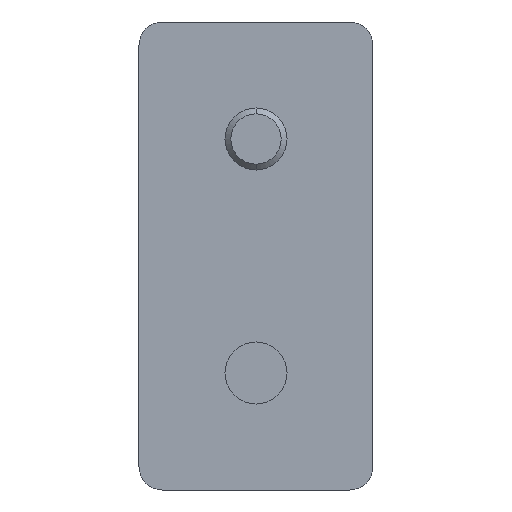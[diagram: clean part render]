
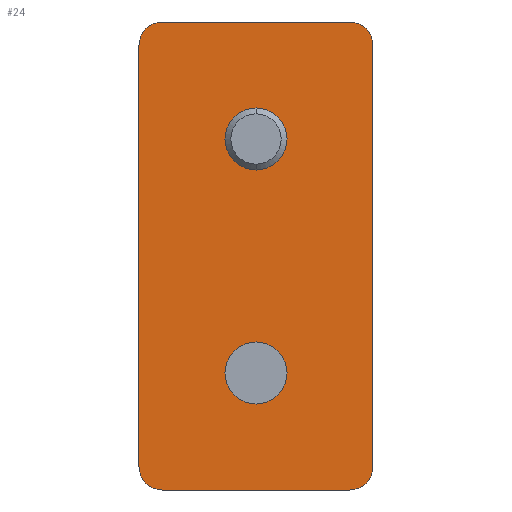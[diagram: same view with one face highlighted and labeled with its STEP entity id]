
A CAD part, front view. The second image highlights one B-rep face of the part: STEP entity #24.
In plain terms, the highlighted planar face has unit normal (0, -1, 0).
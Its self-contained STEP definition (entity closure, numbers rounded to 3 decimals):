
#8 = DIRECTION ( 'NONE',  ( 0., 1., 0. ) ) ;
#10 = ORIENTED_EDGE ( 'NONE', *, *, #295, .T. ) ;
#18 = EDGE_CURVE ( 'NONE', #116, #305, #408, .T. ) ;
#19 = CARTESIAN_POINT ( 'NONE',  ( 0., 0., -12.65 ) ) ;
#24 = ADVANCED_FACE ( 'NONE', ( #632, #572, #552 ), #221, .F. ) ;
#29 = EDGE_CURVE ( 'NONE', #236, #405, #105, .T. ) ;
#40 = CARTESIAN_POINT ( 'NONE',  ( -8., 0., -18. ) ) ;
#59 = DIRECTION ( 'NONE',  ( 1., 0., 0. ) ) ;
#61 = EDGE_LOOP ( 'NONE', ( #681, #417 ) ) ;
#63 = VECTOR ( 'NONE', #113, 1000. ) ;
#82 = DIRECTION ( 'NONE',  ( 0., 0., 1. ) ) ;
#96 = AXIS2_PLACEMENT_3D ( 'NONE', #498, #199, #145 ) ;
#105 = CIRCLE ( 'NONE', #744, 2. ) ;
#113 = DIRECTION ( 'NONE',  ( 0., 0., -1. ) ) ;
#115 = AXIS2_PLACEMENT_3D ( 'NONE', #159, #670, #335 ) ;
#116 = VERTEX_POINT ( 'NONE', #471 ) ;
#118 = ORIENTED_EDGE ( 'NONE', *, *, #483, .T. ) ;
#119 = EDGE_CURVE ( 'NONE', #305, #236, #394, .T. ) ;
#130 = DIRECTION ( 'NONE',  ( 0., 0., 1. ) ) ;
#132 = DIRECTION ( 'NONE',  ( 1., 0., 0. ) ) ;
#140 = CARTESIAN_POINT ( 'NONE',  ( 0., 0., 20. ) ) ;
#143 = CIRCLE ( 'NONE', #153, 2.65 ) ;
#145 = DIRECTION ( 'NONE',  ( 0., 0., 1. ) ) ;
#149 = DIRECTION ( 'NONE',  ( 0., 0., -1. ) ) ;
#153 = AXIS2_PLACEMENT_3D ( 'NONE', #297, #748, #745 ) ;
#154 = EDGE_CURVE ( 'NONE', #651, #310, #143, .T. ) ;
#159 = CARTESIAN_POINT ( 'NONE',  ( 0., 0., 0. ) ) ;
#166 = DIRECTION ( 'NONE',  ( 0., 0., 1. ) ) ;
#178 = CARTESIAN_POINT ( 'NONE',  ( -10., 0., -18. ) ) ;
#179 = VECTOR ( 'NONE', #149, 1000. ) ;
#180 = VECTOR ( 'NONE', #132, 1000. ) ;
#183 = AXIS2_PLACEMENT_3D ( 'NONE', #256, #437, #490 ) ;
#186 = CARTESIAN_POINT ( 'NONE',  ( 10., 0., -18. ) ) ;
#187 = VERTEX_POINT ( 'NONE', #186 ) ;
#193 = ORIENTED_EDGE ( 'NONE', *, *, #29, .T. ) ;
#199 = DIRECTION ( 'NONE',  ( 0., 1., 0. ) ) ;
#207 = CARTESIAN_POINT ( 'NONE',  ( 8., 0., 20. ) ) ;
#214 = EDGE_LOOP ( 'NONE', ( #319, #307 ) ) ;
#215 = CARTESIAN_POINT ( 'NONE',  ( -8., 0., 18. ) ) ;
#219 = DIRECTION ( 'NONE',  ( 0., -1., 0. ) ) ;
#221 = PLANE ( 'NONE',  #115 ) ;
#231 = DIRECTION ( 'NONE',  ( 0., 0., 1. ) ) ;
#236 = VERTEX_POINT ( 'NONE', #178 ) ;
#255 = VERTEX_POINT ( 'NONE', #526 ) ;
#256 = CARTESIAN_POINT ( 'NONE',  ( 8., 0., -18. ) ) ;
#265 = DIRECTION ( 'NONE',  ( 0., -1., 0. ) ) ;
#266 = ORIENTED_EDGE ( 'NONE', *, *, #696, .F. ) ;
#293 = CIRCLE ( 'NONE', #183, 2. ) ;
#295 = EDGE_CURVE ( 'NONE', #405, #372, #338, .T. ) ;
#297 = CARTESIAN_POINT ( 'NONE',  ( 0., 0., -10. ) ) ;
#305 = VERTEX_POINT ( 'NONE', #422 ) ;
#307 = ORIENTED_EDGE ( 'NONE', *, *, #154, .F. ) ;
#310 = VERTEX_POINT ( 'NONE', #660 ) ;
#319 = ORIENTED_EDGE ( 'NONE', *, *, #413, .F. ) ;
#321 = CARTESIAN_POINT ( 'NONE',  ( 10., 0., 18. ) ) ;
#333 = EDGE_CURVE ( 'NONE', #116, #723, #702, .T. ) ;
#334 = EDGE_CURVE ( 'NONE', #754, #255, #527, .T. ) ;
#335 = DIRECTION ( 'NONE',  ( 0., 0., 1. ) ) ;
#338 = LINE ( 'NONE', #532, #180 ) ;
#346 = AXIS2_PLACEMENT_3D ( 'NONE', #713, #446, #82 ) ;
#366 = EDGE_CURVE ( 'NONE', #372, #187, #293, .T. ) ;
#372 = VERTEX_POINT ( 'NONE', #648 ) ;
#378 = CARTESIAN_POINT ( 'NONE',  ( 0., 0., 12.65 ) ) ;
#391 = ORIENTED_EDGE ( 'NONE', *, *, #333, .F. ) ;
#394 = LINE ( 'NONE', #469, #63 ) ;
#398 = CIRCLE ( 'NONE', #346, 2.65 ) ;
#405 = VERTEX_POINT ( 'NONE', #661 ) ;
#407 = EDGE_LOOP ( 'NONE', ( #391, #630, #545, #193, #10, #436, #266, #118 ) ) ;
#408 = CIRCLE ( 'NONE', #464, 2. ) ;
#411 = VERTEX_POINT ( 'NONE', #321 ) ;
#413 = EDGE_CURVE ( 'NONE', #310, #651, #398, .T. ) ;
#417 = ORIENTED_EDGE ( 'NONE', *, *, #720, .T. ) ;
#422 = CARTESIAN_POINT ( 'NONE',  ( -10., 0., 18. ) ) ;
#426 = VECTOR ( 'NONE', #59, 1000. ) ;
#436 = ORIENTED_EDGE ( 'NONE', *, *, #366, .T. ) ;
#437 = DIRECTION ( 'NONE',  ( 0., -1., 0. ) ) ;
#446 = DIRECTION ( 'NONE',  ( 0., -1., 0. ) ) ;
#448 = CARTESIAN_POINT ( 'NONE',  ( 8., 0., 18. ) ) ;
#464 = AXIS2_PLACEMENT_3D ( 'NONE', #215, #219, #166 ) ;
#469 = CARTESIAN_POINT ( 'NONE',  ( -10., 0., 0. ) ) ;
#471 = CARTESIAN_POINT ( 'NONE',  ( -8., 0., 20. ) ) ;
#483 = EDGE_CURVE ( 'NONE', #411, #723, #624, .T. ) ;
#490 = DIRECTION ( 'NONE',  ( 0., 0., 1. ) ) ;
#498 = CARTESIAN_POINT ( 'NONE',  ( 0., 0., 10. ) ) ;
#499 = DIRECTION ( 'NONE',  ( 0., 0., 1. ) ) ;
#521 = DIRECTION ( 'NONE',  ( 0., -1., 0. ) ) ;
#526 = CARTESIAN_POINT ( 'NONE',  ( 0., 0., 7.35 ) ) ;
#527 = CIRCLE ( 'NONE', #610, 2.65 ) ;
#532 = CARTESIAN_POINT ( 'NONE',  ( 0., 0., -20. ) ) ;
#542 = CARTESIAN_POINT ( 'NONE',  ( 10., 0., 0. ) ) ;
#545 = ORIENTED_EDGE ( 'NONE', *, *, #119, .T. ) ;
#552 = FACE_OUTER_BOUND ( 'NONE', #407, .T. ) ;
#572 = FACE_BOUND ( 'NONE', #61, .T. ) ;
#577 = CIRCLE ( 'NONE', #96, 2.65 ) ;
#604 = LINE ( 'NONE', #542, #179 ) ;
#610 = AXIS2_PLACEMENT_3D ( 'NONE', #657, #8, #130 ) ;
#624 = CIRCLE ( 'NONE', #628, 2. ) ;
#628 = AXIS2_PLACEMENT_3D ( 'NONE', #448, #265, #499 ) ;
#630 = ORIENTED_EDGE ( 'NONE', *, *, #18, .T. ) ;
#632 = FACE_BOUND ( 'NONE', #214, .T. ) ;
#648 = CARTESIAN_POINT ( 'NONE',  ( 8., 0., -20. ) ) ;
#651 = VERTEX_POINT ( 'NONE', #19 ) ;
#657 = CARTESIAN_POINT ( 'NONE',  ( 0., 0., 10. ) ) ;
#660 = CARTESIAN_POINT ( 'NONE',  ( 0., 0., -7.35 ) ) ;
#661 = CARTESIAN_POINT ( 'NONE',  ( -8., 0., -20. ) ) ;
#670 = DIRECTION ( 'NONE',  ( 0., 1., 0. ) ) ;
#681 = ORIENTED_EDGE ( 'NONE', *, *, #334, .T. ) ;
#696 = EDGE_CURVE ( 'NONE', #411, #187, #604, .T. ) ;
#702 = LINE ( 'NONE', #140, #426 ) ;
#713 = CARTESIAN_POINT ( 'NONE',  ( 0., 0., -10. ) ) ;
#720 = EDGE_CURVE ( 'NONE', #255, #754, #577, .T. ) ;
#723 = VERTEX_POINT ( 'NONE', #207 ) ;
#744 = AXIS2_PLACEMENT_3D ( 'NONE', #40, #521, #231 ) ;
#745 = DIRECTION ( 'NONE',  ( 0., 0., 1. ) ) ;
#748 = DIRECTION ( 'NONE',  ( 0., -1., 0. ) ) ;
#754 = VERTEX_POINT ( 'NONE', #378 ) ;
